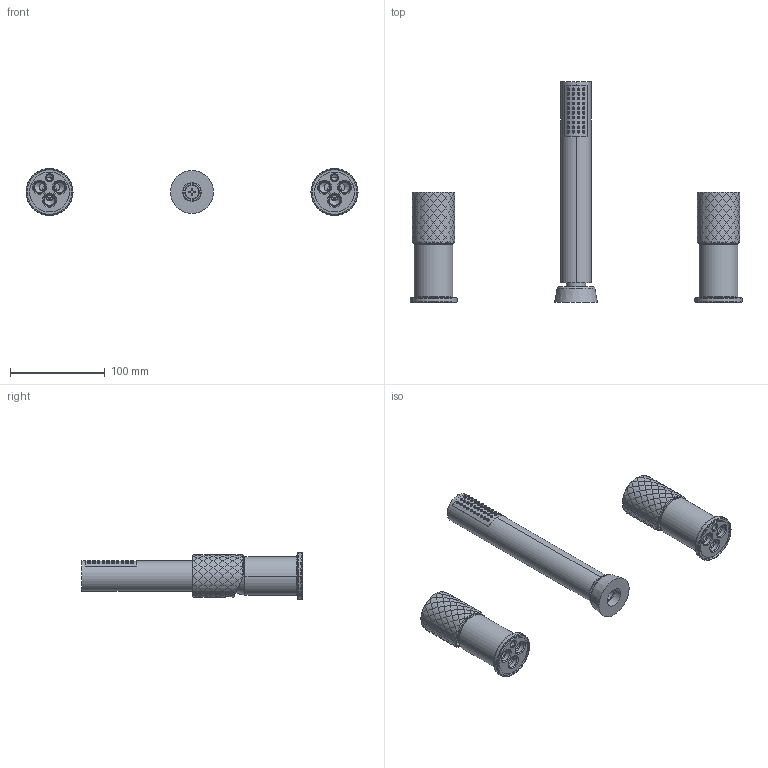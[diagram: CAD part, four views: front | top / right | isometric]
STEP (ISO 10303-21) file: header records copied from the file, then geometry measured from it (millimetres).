
FILE_DESCRIPTION((''),'2;1');
FILE_NAME('F3044_1X_FILE_3D','2018-11-28T',('ivanv'),(''),'CREO PARAMETRIC BY PTC INC, 2016260','CREO PARAMETRIC BY PTC INC, 2016260','');
FILE_SCHEMA(('CONFIG_CONTROL_DESIGN'));
Length unit declared in the file: millimetre
Products named in the file (1): F3044_1X_FILE_3D
Bounding box: 349.5 x 232.5 x 49.5 mm (x, y, z)
Volume: 318999.5 mm3; surface area: 114172.1 mm2
Topology: 5 solids, 5 shells, 1591 faces, 4209 edges, 2734 vertices
Faces by surface type: plane 694, cylinder 691, cone 144, torus 50, bspline 8, sphere 4
Entity records: 61015 total; most frequent: CARTESIAN_POINT 23662, ORIENTED_EDGE 8378, DIRECTION 6711, EDGE_CURVE 4189, VERTEX_POINT 2734, AXIS2_PLACEMENT_3D 2293, VECTOR 2125, LINE 2125
